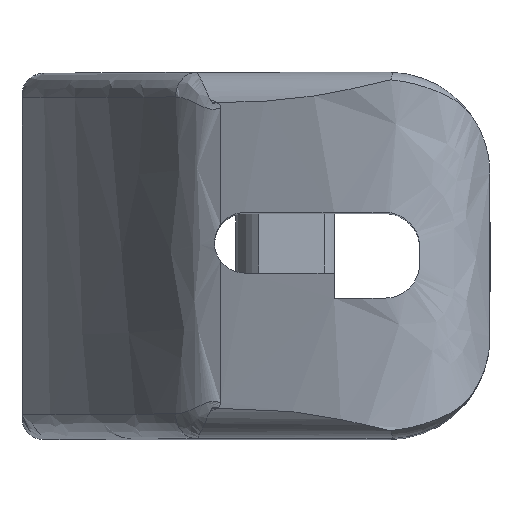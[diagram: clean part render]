
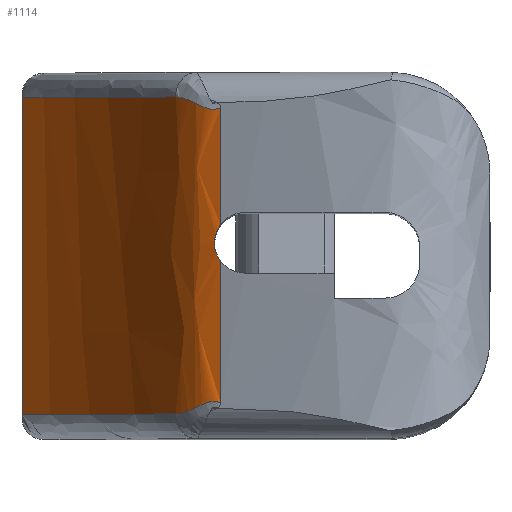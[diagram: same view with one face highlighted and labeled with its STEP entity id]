
A CAD part, top view. The second image highlights one B-rep face of the part: STEP entity #1114.
In plain terms, the highlighted free-form (B-spline) face has degree [3, 1] with [8, 2] control points.
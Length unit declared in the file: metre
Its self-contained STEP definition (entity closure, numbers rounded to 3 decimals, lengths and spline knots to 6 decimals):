
#21=B_SPLINE_SURFACE_WITH_KNOTS('',3,1,((#1904,#1905),(#1906,#1907),(#1908,
#1909),(#1910,#1911),(#1912,#1913),(#1914,#1915),(#1916,#1917),(#1918,#1919)),
 .SURF_OF_LINEAR_EXTRUSION.,.F.,.F.,.F.,(4,1,1,1,1,4),(2,2),(0.676666,
0.717083,0.7575,0.838333,0.919167,
1.),(0.,1.),.UNSPECIFIED.);
#27=B_SPLINE_CURVE_WITH_KNOTS('',3,(#1678,#1679,#1680,#1681,#1682),
 .UNSPECIFIED.,.F.,.F.,(4,1,4),(0.,0.000983,0.001966),
 .UNSPECIFIED.);
#50=B_SPLINE_CURVE_WITH_KNOTS('',3,(#1920,#1921,#1922,#1923,#1924,#1925,
#1926,#1927),.UNSPECIFIED.,.F.,.F.,(4,1,1,1,1,4),(0.,0.000405,
0.000811,0.001216,0.001621,0.003242),
 .UNSPECIFIED.);
#51=B_SPLINE_CURVE_WITH_KNOTS('',3,(#1929,#1930,#1931,#1932,#1933,#1934,
#1935,#1936),.UNSPECIFIED.,.F.,.F.,(4,1,1,1,1,4),(0.,0.003539,
0.007077,0.014155,0.021232,0.028309),
 .UNSPECIFIED.);
#52=B_SPLINE_CURVE_WITH_KNOTS('',3,(#1940,#1941,#1942,#1943,#1944,#1945,
#1946,#1947),.UNSPECIFIED.,.F.,.F.,(4,1,1,1,1,4),(0.,0.007119,
0.014238,0.021357,0.024917,0.028477),
 .UNSPECIFIED.);
#53=B_SPLINE_CURVE_WITH_KNOTS('',3,(#1949,#1950,#1951,#1952,#1953,#1954,
#1955,#1956),.UNSPECIFIED.,.F.,.F.,(4,1,1,1,1,4),(0.,0.001603,
0.002004,0.002404,0.002805,0.003206),
 .UNSPECIFIED.);
#304=ORIENTED_EDGE('',*,*,#539,.T.);
#305=ORIENTED_EDGE('',*,*,#572,.T.);
#306=ORIENTED_EDGE('',*,*,#573,.T.);
#307=ORIENTED_EDGE('',*,*,#574,.T.);
#308=ORIENTED_EDGE('',*,*,#575,.T.);
#309=ORIENTED_EDGE('',*,*,#576,.T.);
#310=ORIENTED_EDGE('',*,*,#529,.T.);
#311=ORIENTED_EDGE('',*,*,#523,.T.);
#523=EDGE_CURVE('',#678,#677,#27,.T.);
#529=EDGE_CURVE('',#682,#678,#788,.T.);
#539=EDGE_CURVE('',#677,#691,#790,.T.);
#572=EDGE_CURVE('',#691,#711,#50,.T.);
#573=EDGE_CURVE('',#711,#712,#51,.T.);
#574=EDGE_CURVE('',#712,#713,#803,.F.);
#575=EDGE_CURVE('',#713,#714,#52,.T.);
#576=EDGE_CURVE('',#714,#682,#53,.T.);
#677=VERTEX_POINT('',#1677);
#678=VERTEX_POINT('',#1683);
#682=VERTEX_POINT('',#1718);
#691=VERTEX_POINT('',#1773);
#711=VERTEX_POINT('',#1928);
#712=VERTEX_POINT('',#1937);
#713=VERTEX_POINT('',#1939);
#714=VERTEX_POINT('',#1948);
#788=LINE('',#1717,#893);
#790=LINE('',#1774,#895);
#803=LINE('',#1938,#908);
#893=VECTOR('',#1349,1.);
#895=VECTOR('',#1351,1.);
#908=VECTOR('',#1400,1.);
#978=EDGE_LOOP('',(#304,#305,#306,#307,#308,#309,#310,#311));
#1041=FACE_BOUND('',#978,.T.);
#1114=ADVANCED_FACE('',(#1041),#21,.T.);
#1349=DIRECTION('',(0.,1.,0.));
#1351=DIRECTION('',(0.,1.,0.));
#1400=DIRECTION('',(0.,1.,0.));
#1677=CARTESIAN_POINT('',(0.02011,-0.047309,0.146353));
#1678=CARTESIAN_POINT('',(0.02011,-0.049138,0.146353));
#1679=CARTESIAN_POINT('',(0.01991,-0.048876,0.146316));
#1680=CARTESIAN_POINT('',(0.019693,-0.048225,0.146208));
#1681=CARTESIAN_POINT('',(0.01991,-0.047572,0.146316));
#1682=CARTESIAN_POINT('',(0.02011,-0.047309,0.146353));
#1683=CARTESIAN_POINT('',(0.02011,-0.049138,0.146353));
#1717=CARTESIAN_POINT('',(0.02011,-0.063352,0.146353));
#1718=CARTESIAN_POINT('',(0.02011,-0.056219,0.146353));
#1773=CARTESIAN_POINT('',(0.02011,-0.041478,0.146353));
#1774=CARTESIAN_POINT('',(0.02011,-0.063352,0.146353));
#1904=CARTESIAN_POINT('',(0.010154,-0.056798,0.117066));
#1905=CARTESIAN_POINT('',(0.010154,-0.040899,0.117066));
#1906=CARTESIAN_POINT('',(0.01032,-0.056798,0.118416));
#1907=CARTESIAN_POINT('',(0.01032,-0.040899,0.118416));
#1908=CARTESIAN_POINT('',(0.010734,-0.056798,0.121258));
#1909=CARTESIAN_POINT('',(0.010734,-0.040899,0.121258));
#1910=CARTESIAN_POINT('',(0.011944,-0.056798,0.127529));
#1911=CARTESIAN_POINT('',(0.011944,-0.040899,0.127529));
#1912=CARTESIAN_POINT('',(0.014025,-0.056798,0.135676));
#1913=CARTESIAN_POINT('',(0.014025,-0.040899,0.135676));
#1914=CARTESIAN_POINT('',(0.017038,-0.056798,0.143633));
#1915=CARTESIAN_POINT('',(0.017038,-0.040899,0.143633));
#1916=CARTESIAN_POINT('',(0.019118,-0.056798,0.146168));
#1917=CARTESIAN_POINT('',(0.019118,-0.040899,0.146168));
#1918=CARTESIAN_POINT('',(0.02011,-0.056798,0.146353));
#1919=CARTESIAN_POINT('',(0.02011,-0.040899,0.146353));
#1920=CARTESIAN_POINT('',(0.02011,-0.041478,0.146353));
#1921=CARTESIAN_POINT('',(0.019977,-0.041494,0.146329));
#1922=CARTESIAN_POINT('',(0.01972,-0.041538,0.146242));
#1923=CARTESIAN_POINT('',(0.019373,-0.041461,0.146039));
#1924=CARTESIAN_POINT('',(0.019076,-0.041322,0.145805));
#1925=CARTESIAN_POINT('',(0.01853,-0.041054,0.145285));
#1926=CARTESIAN_POINT('',(0.018136,-0.040899,0.144753));
#1927=CARTESIAN_POINT('',(0.017842,-0.040899,0.144302));
#1928=CARTESIAN_POINT('',(0.017842,-0.040899,0.144302));
#1929=CARTESIAN_POINT('',(0.017842,-0.040899,0.144302));
#1930=CARTESIAN_POINT('',(0.017175,-0.040899,0.143274));
#1931=CARTESIAN_POINT('',(0.016142,-0.040899,0.141125));
#1932=CARTESIAN_POINT('',(0.01446,-0.040899,0.136708));
#1933=CARTESIAN_POINT('',(0.012809,-0.040899,0.131045));
#1934=CARTESIAN_POINT('',(0.011223,-0.040899,0.124125));
#1935=CARTESIAN_POINT('',(0.010444,-0.040899,0.119426));
#1936=CARTESIAN_POINT('',(0.010154,-0.040899,0.117066));
#1937=CARTESIAN_POINT('',(0.010154,-0.040899,0.117066));
#1938=CARTESIAN_POINT('',(0.010154,-0.040899,0.117066));
#1939=CARTESIAN_POINT('',(0.010154,-0.056798,0.117066));
#1940=CARTESIAN_POINT('',(0.010154,-0.056798,0.117066));
#1941=CARTESIAN_POINT('',(0.010444,-0.056798,0.119422));
#1942=CARTESIAN_POINT('',(0.011221,-0.056798,0.12411));
#1943=CARTESIAN_POINT('',(0.012805,-0.056798,0.131035));
#1944=CARTESIAN_POINT('',(0.014469,-0.056798,0.136737));
#1945=CARTESIAN_POINT('',(0.016158,-0.056798,0.141165));
#1946=CARTESIAN_POINT('',(0.017189,-0.056798,0.143296));
#1947=CARTESIAN_POINT('',(0.017842,-0.056798,0.144302));
#1948=CARTESIAN_POINT('',(0.017842,-0.056798,0.144302));
#1949=CARTESIAN_POINT('',(0.017842,-0.056798,0.144302));
#1950=CARTESIAN_POINT('',(0.018136,-0.056798,0.144753));
#1951=CARTESIAN_POINT('',(0.01853,-0.056643,0.145285));
#1952=CARTESIAN_POINT('',(0.019075,-0.056375,0.145805));
#1953=CARTESIAN_POINT('',(0.019373,-0.056236,0.146038));
#1954=CARTESIAN_POINT('',(0.019718,-0.056159,0.146241));
#1955=CARTESIAN_POINT('',(0.019977,-0.056203,0.146329));
#1956=CARTESIAN_POINT('',(0.02011,-0.056219,0.146353));
